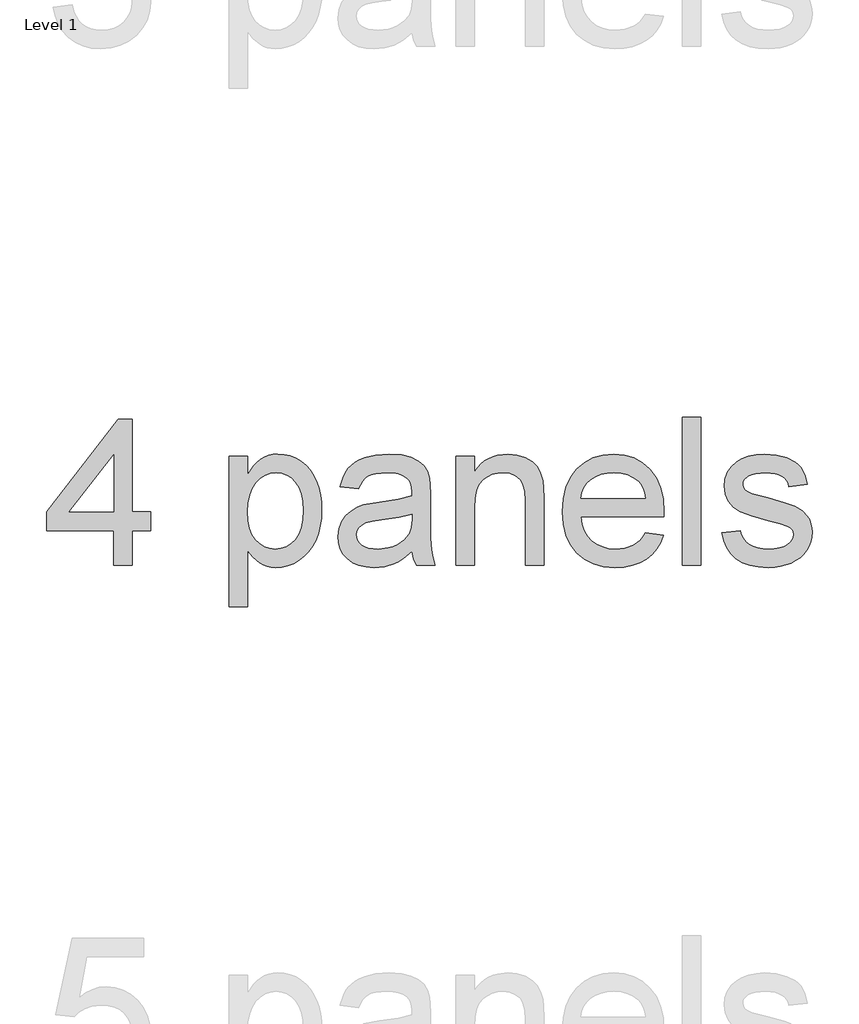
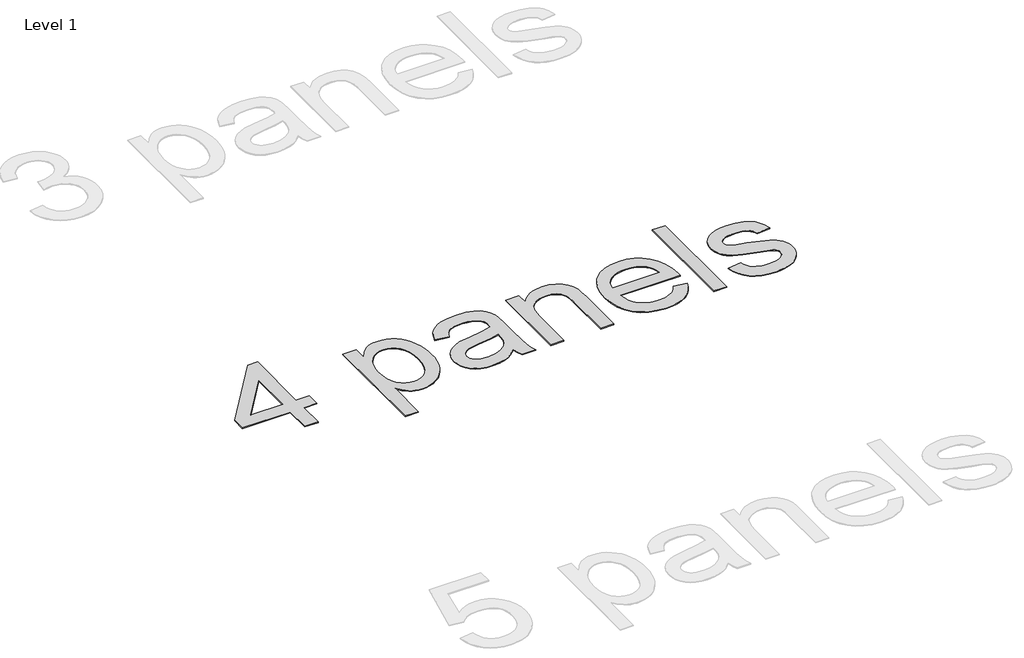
# One storey, part 6 of 80: 1 proxy.
"""IFC4 building model written with IfcOpenShell, lengths in millimetres."""

from ifc_helpers import new_model, si_unit, origin, origin_with_axes, place, context, project, spatial, polyline, outline, extrude, element, save

model = new_model("IFC4")

# Units and contexts
model_context = context("Model", 3, world=origin())
ifc_project = project(units=[si_unit("LENGTHUNIT", "METRE", prefix="MILLI")], contexts=[model_context])

# Site, building, storey
site = spatial("IfcSite", under=ifc_project)
building = spatial("IfcBuilding", under=site)
storey = spatial("IfcBuildingStorey", under=building, Name="Level 1", Elevation=0.0)

# Proxy
placement = place(None, origin())
element("IfcBuildingElementProxy", 1, Name="800mm Arial", ObjectType="800mm Arial", at=placement, inside=storey, context=model_context, shape_type="SweptSolid", body=[
    extrude(outline(polyline([(373446.668266, -97546.1993899), (373446.668266, -97358.8426637), (373084.4452621, -97358.8426637), (373084.4452621, -97258.9190764), (373471.6491628, -96759.30114), (373546.5918533, -96759.30114), (373546.5918533, -97258.9190764), (373646.5154406, -97258.9190764), (373646.5154406, -97358.8426637), (373546.5918533, -97358.8426637), (373546.5918533, -97546.1993899), (373446.668266, -97546.1993899)]), holes=[polyline([(373446.668266, -97258.9190764), (373446.668266, -96950.1708047), (373207.3981136, -97258.9190764), (373446.668266, -97258.9190764)])]), origin_with_axes(), (0.0, 0.0, 1.0), 5.0),
    extrude(outline(polyline([(374071.1906866, -97771.0274613), (374071.1906866, -96959.1483145), (374171.1142739, -96959.1483145), (374171.1142739, -97057.1202693), (374203.7065377, -97008.7929679), (374221.466394, -96989.8072424), (374240.2020667, -96974.2734669), (374260.4502545, -96962.1916416), (374282.7476566, -96953.5617663), (374307.0942728, -96948.3838412), (374333.4901032, -96946.6578661), (374368.3389422, -96949.0730114), (374401.0653808, -96956.3184473), (374431.6694189, -96968.3941738), (374460.1510567, -96985.3001909), (374485.8882111, -97006.5973813), (374508.2587994, -97031.8466276), (374527.2628215, -97061.0479298), (374542.9002774, -97094.201288), (374555.1101786, -97130.1723157), (374563.8315366, -97167.8266265), (374569.0643515, -97207.1642203), (374570.8086231, -97248.1850973), (374568.8386939, -97292.0419403), (374562.9289066, -97333.6422082), (374553.079261, -97372.9859009), (374539.2897571, -97410.0730185), (374521.7494595, -97443.9338435), (374500.6474324, -97473.5986585), (374475.9836758, -97499.0674635), (374447.7581899, -97520.3402584), (374417.3554138, -97537.1181996), (374386.1597871, -97549.1024433), (374354.1713096, -97556.2929895), (374321.3899813, -97558.6898383), (374297.8057216, -97557.0858403), (374275.4534299, -97552.2738462), (374254.3331062, -97544.2538562), (374234.4447506, -97533.0258701), (374199.3397598, -97503.9709403), (374171.1142739, -97468.1340873), (374171.1142739, -97771.0274613), (374071.1906866, -97771.0274613)]), holes=[polyline([(374171.1142739, -97257.3577704), (374173.8160652, -97305.5143039), (374181.9214392, -97346.9377051), (374195.4303959, -97381.6279739), (374214.3429352, -97409.5851104), (374237.1099488, -97431.1018594), (374262.1823284, -97446.4709658), (374289.560074, -97455.6924297), (374319.2431855, -97458.766251), (374349.3532167, -97455.5826504), (374377.2310681, -97446.0318485), (374402.8767398, -97430.1138454), (374426.2902317, -97407.8286411), (374445.8004585, -97378.8590952), (374459.7363347, -97342.8880675), (374468.0978605, -97299.915558), (374470.8850358, -97249.9415666), (374468.1649479, -97202.199755), (374460.0046842, -97160.8495401), (374446.4042448, -97125.8909217), (374427.3636296, -97097.3239001), (374404.5417263, -97075.1240797), (374379.5974226, -97059.2670651), (374352.5307184, -97049.7528563), (374323.3416139, -97046.5814534), (374294.2439921, -97049.9541184), (374266.8662466, -97060.0721135), (374241.2083772, -97076.9354386), (374217.270384, -97100.5440938), (374197.0770858, -97130.5809388), (374182.6533014, -97166.7288332), (374173.9990308, -97208.987777), (374171.1142739, -97257.3577704)])]), origin_with_axes(), (0.0, 0.0, 1.0), 5.0),
    extrude(outline(polyline([(375057.9361111, -97471.2566994), (375010.1942995, -97512.1921924), (374985.7927936, -97527.3539379), (374961.0375543, -97538.9783494), (374909.3436867, -97553.7619661), (374853.9905081, -97558.6898383), (374809.4993845, -97555.7257963), (374770.4850298, -97546.8336705), (374736.9474439, -97532.0134607), (374708.886627, -97511.265167), (374686.7294985, -97485.9061413), (374670.9029782, -97457.2537358), (374661.407066, -97425.3079502), (374658.2417619, -97390.0687847), (374663.0232617, -97348.6453836), (374677.3677611, -97311.0276659), (374699.4943953, -97278.8257286), (374727.6222996, -97253.6496685), (374760.6780762, -97234.621251), (374797.588327, -97220.8622414), (374884.0456496, -97205.8346707), (374986.2136144, -97190.0264469), (375057.3506213, -97171.4859375), (375057.9361111, -97149.2373263), (375056.2162349, -97125.0126871), (375051.0566063, -97104.6425222), (375042.4572253, -97088.1268316), (375030.418092, -97075.4656154), (375009.6088097, -97062.8287945), (374984.2619818, -97053.8024939), (374954.3776082, -97048.3867135), (374919.9556888, -97046.5814534), (374860.4308956, -97051.3873486), (374837.4016313, -97057.3947176), (374818.861122, -97065.8050342), (374803.6261903, -97077.2769743), (374790.513659, -97092.4692141), (374779.5235281, -97111.3817534), (374770.6557976, -97134.0145923), (374670.7322104, -97121.5241439), (374688.0773448, -97066.8784321), (374699.9518092, -97043.9467495), (374713.9608717, -97023.9425157), (374730.7083186, -97006.4632065), (374750.7979363, -96991.1062978), (374774.2297248, -96977.8717895), (374801.003684, -96966.7596815), (374862.4069236, -96951.68332), (374932.8364637, -96946.6578661), (375000.3873459, -96951.0978302), (375053.9352644, -96964.4177225), (375094.309663, -96984.4463517), (375122.3399857, -97009.0125266), (375140.9292859, -97039.3848083), (375152.980617, -97076.8317582), (375156.6399281, -97111.3756546), (375157.8596984, -97164.264897), (375157.8596984, -97288.5838914), (375159.1282596, -97396.8751033), (375162.9339431, -97462.181608), (375170.4477284, -97505.093129), (375182.8405952, -97546.1993899), (375082.9170079, -97546.1993899), (375066.9136209, -97511.4603302), (375057.9361111, -97471.2566994)]), holes=[polyline([(375057.9361111, -97271.4095248), (374990.7999509, -97288.0471924), (374896.7312613, -97302.0501561), (374844.8910213, -97309.7103139), (374810.7618468, -97318.2487064), (374788.3912586, -97329.3242212), (374771.8267772, -97344.595746), (374761.5807062, -97362.8923013), (374758.1653492, -97383.0429075), (374760.025499, -97398.5705841), (374765.6059484, -97412.7565133), (374774.9066973, -97425.6006951), (374787.9277458, -97437.1031295), (374804.5471169, -97446.5807452), (374824.6428335, -97453.3504706), (374875.2633031, -97458.766251), (374928.9331986, -97452.7893763), (374953.4261873, -97445.3182829), (374976.3578699, -97434.8587521), (375014.8050314, -97408.4385262), (375041.5423976, -97376.9928466), (375053.3985654, -97344.595746), (375057.3506213, -97299.708197), (375057.9361111, -97271.4095248)])]), origin_with_axes(), (0.0, 0.0, 1.0), 5.0),
    extrude(outline(polyline([(375295.2546309, -97546.1993899), (375295.2546309, -96959.1483145), (375395.1782182, -96959.1483145), (375395.1782182, -97041.1168822), (375411.6634145, -97018.9780503), (375429.8928825, -96999.7910627), (375449.866622, -96983.5559193), (375471.5846331, -96970.2726202), (375495.0469159, -96959.9411653), (375520.2534702, -96952.5615546), (375575.8993937, -96946.6578661), (375625.1537205, -96951.4149705), (375670.2608282, -96965.6862836), (375707.8785458, -96987.6909408), (375734.6647028, -97015.6480773), (375752.839281, -97049.4845069), (375764.6222626, -97089.1270433), (375768.5743186, -97127.0375059), (375769.8916706, -97185.7328553), (375769.8916706, -97546.1993899), (375669.9680833, -97546.1993899), (375669.9680833, -97199.1991199), (375667.0894252, -97147.5296478), (375658.4534512, -97110.7901648), (375642.5232503, -97084.4675206), (375617.7619122, -97064.0485649), (375586.0234876, -97050.9482313), (375549.1620275, -97046.5814534), (375518.82024, -97049.0331918), (375490.637446, -97056.3884071), (375464.6136456, -97068.6470991), (375440.7488386, -97085.809268), (375420.8116922, -97109.8265462), (375406.5708733, -97142.6505664), (375398.026382, -97184.2813285), (375395.1782182, -97234.7188326), (375395.1782182, -97546.1993899), (375295.2546309, -97546.1993899)])), origin_with_axes(), (0.0, 0.0, 1.0), 5.0),
    extrude(outline(polyline([(376318.3004211, -97371.3331121), (376416.2723759, -97383.8235605), (376401.250904, -97423.0635728), (376380.9722219, -97457.6440623), (376355.4363295, -97487.565029), (376324.643227, -97512.826473), (376288.9100545, -97532.8916953), (376248.5539524, -97547.223997), (376203.5749206, -97555.823378), (376153.9729592, -97558.6898383), (376091.9720322, -97553.7436695), (376036.7286329, -97538.9051632), (375988.2427614, -97514.1743193), (375946.5144176, -97479.5511378), (375912.9585352, -97435.9992374), (375888.9900478, -97384.4822365), (375874.6089554, -97325.0001353), (375869.8152579, -97257.5529336), (375874.6577462, -97187.8186626), (375889.1852111, -97126.3544345), (375913.3976526, -97073.1602494), (375929.1357395, -97049.664423), (375947.2950707, -97028.2361073), (375988.9136351, -96992.5456268), (376036.2895156, -96967.0524264), (376089.4227122, -96951.7565062), (376148.3132248, -96946.6578661), (376205.3069945, -96951.7443085), (376256.8483908, -96967.0036356), (376302.9374136, -96992.4358475), (376343.5740629, -97028.0409441), (376376.7457176, -97072.8675045), (376400.4397567, -97125.964108), (376414.6561802, -97187.3307544), (376419.394988, -97256.9674439), (376418.8094982, -97283.8999732), (375969.7388452, -97283.8999732), (375975.5266555, -97323.7742661), (375987.0351888, -97358.6962913), (376004.264445, -97388.6660488), (376027.2144242, -97413.6835388), (376054.6165652, -97433.4072254), (376085.2023067, -97447.4955729), (376118.971649, -97455.9485815), (376155.9245918, -97458.766251), (376209.1065792, -97453.5456339), (376253.8965465, -97437.8837826), (376273.1445227, -97425.89344), (376290.2944938, -97410.8048807), (376305.34646, -97392.6181048), (376318.3004211, -97371.3331121)]), holes=[polyline([(375969.7388452, -97183.9763859), (376319.4714007, -97183.9763859), (376314.3361675, -97155.7021092), (376305.9563452, -97131.1847251), (376294.3319337, -97110.4242337), (376279.4629331, -97093.420635), (376252.2132634, -97072.928493), (376221.2067011, -97058.2912488), (376186.443246, -97049.5089023), (376147.9228983, -97046.5814534), (376112.7874133, -97048.9173136), (376080.5671794, -97055.9248943), (376051.2621967, -97067.6041954), (376024.8724651, -97083.955217), (376002.7275343, -97104.2217014), (375986.1569541, -97127.6473911), (375975.1607244, -97154.2322859), (375969.7388452, -97183.9763859)])]), origin_with_axes(), (0.0, 0.0, 1.0), 5.0),
    extrude(outline(polyline([(376519.3185753, -97546.1993899), (376519.3185753, -96746.8106915), (376619.2421626, -96746.8106915), (376619.2421626, -97546.1993899), (376519.3185753, -97546.1993899)])), origin_with_axes(), (0.0, 0.0, 1.0), 5.0),
    extrude(outline(polyline([(376731.6561983, -97371.3331121), (376831.5797856, -97358.8426637), (376837.6176488, -97381.6279739), (376847.3392185, -97401.5834169), (376860.7444947, -97418.7089926), (376877.8334773, -97433.0047012), (376898.6549573, -97444.2753792), (376923.2577253, -97452.3258635), (376951.6417814, -97457.1561541), (376983.8071256, -97458.766251), (377015.9358767, -97457.2903289), (377043.6246637, -97452.8625625), (377066.8734866, -97445.4829519), (377085.6823454, -97435.151497), (377100.1976126, -97422.8318164), (377110.5656606, -97409.4875288), (377116.7864894, -97395.118634), (377118.860099, -97379.7251321), (377116.7742917, -97366.234472), (377110.5168698, -97354.2563272), (377100.0878333, -97343.7906976), (377085.4871822, -97334.8375832), (377048.0646278, -97322.1519715), (376982.636146, -97306.3437477), (376891.4461145, -97279.9723127), (376832.1652753, -97257.455352), (376794.0840449, -97232.8891771), (376778.9771891, -97217.6237511), (376766.4928395, -97200.3700995), (376749.7331949, -97161.9717288), (376744.1466467, -97119.7676746), (376748.6354016, -97081.0521636), (376762.1016663, -97045.3128923), (376783.3256704, -97013.9647942), (376811.0876436, -96988.422803), (376838.678849, -96972.3462298), (376874.6132836, -96958.8555697), (376916.1586618, -96949.707292), (376960.5826981, -96946.6578661), (377025.6208533, -96951.5613429), (377082.1694068, -96966.2717734), (377127.6424456, -96989.3498285), (377145.2559295, -97003.4869669), (377159.4540564, -97019.3561791), (377180.5316881, -97058.5108075), (377193.8027895, -97109.0336955), (377093.8792022, -97121.5241439), (377089.115999, -97104.8315866), (377081.2667768, -97090.0784642), (377070.3315355, -97077.2647766), (377056.3102753, -97066.3905239), (377039.1420076, -97057.7240556), (377018.7657439, -97051.533721), (376968.3892283, -97046.5814534), (376911.0112309, -97051.3141624), (376889.4944819, -97057.2300486), (376872.7592327, -97065.5122893), (376851.2424836, -97086.0044312), (376845.8632964, -97097.4214817), (376844.070234, -97109.6191852), (376847.0464736, -97124.9882917), (376855.9751926, -97138.6985105), (376871.2467174, -97150.9450048), (376893.2513746, -97160.7519584), (376979.3183707, -97182.0247534), (377067.6053488, -97208.1278389), (377125.9835579, -97229.0590982), (377164.7234643, -97251.5516635), (377194.0955344, -97282.3386672), (377204.8966009, -97300.8669788), (377212.6116483, -97321.5176909), (377217.2406768, -97344.2908034), (377218.7836863, -97369.1863163), (377216.9723273, -97394.1916085), (377211.5382504, -97418.4650385), (377202.4814556, -97442.0066064), (377189.8019427, -97464.8163119), (377173.7070729, -97485.9854264), (377154.4042071, -97504.6052209), (377131.8933452, -97520.6756953), (377106.1744874, -97534.1968496), (377077.9490014, -97544.9125322), (377047.9182553, -97552.5665911), (377016.0822491, -97557.1590265), (376982.4409828, -97558.6898383), (376928.6613079, -97555.737994), (376881.6879516, -97546.8824613), (376841.5209139, -97532.12324), (376808.1601948, -97511.4603302), (376780.9105251, -97484.9913136), (376759.0766358, -97452.8137717), (376742.6585268, -97414.9277045), (376731.6561983, -97371.3331121)])), origin_with_axes(), (0.0, 0.0, 1.0), 5.0),
])

save(model, "model.ifc")
